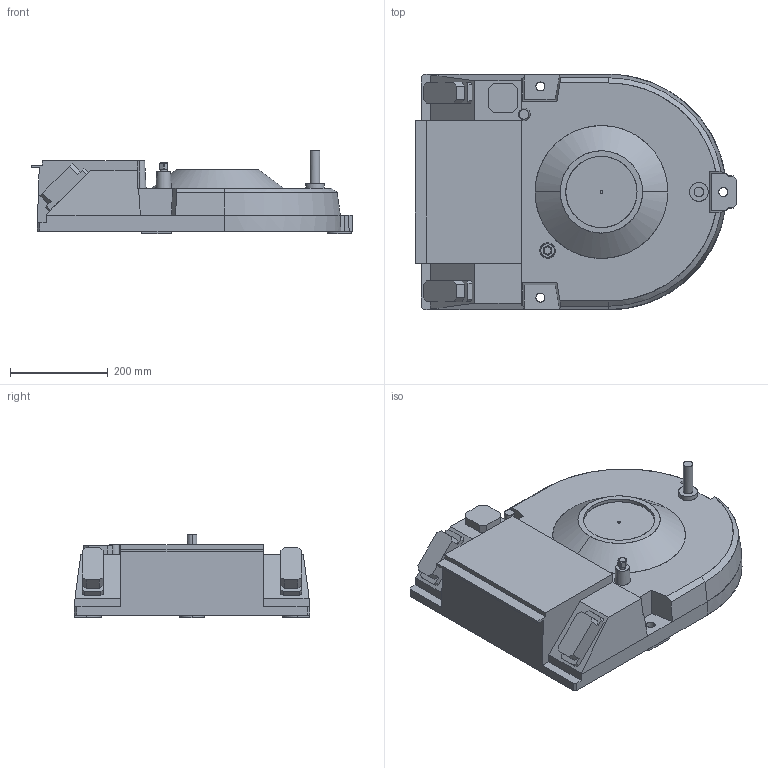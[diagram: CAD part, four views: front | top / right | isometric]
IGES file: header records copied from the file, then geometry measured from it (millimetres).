
Start section: SolidWorks IGES file using analytic representation for surfaces
Global section: file name: C:\Users\CNYUGAO6\Desktop\web model\IRB1660ID_4-155_IRC5_rev0_BASE.IGS; native system: SolidWorks 2014; preprocessor: SolidWorks 2014; author: CNYUGAO6; date: 160905.131612; units: millimetre
Bounding box: 660.26 x 483.27 x 171 mm (x, y, z)
Surface area: 853667 mm2 (no closed solid volume)
Topology: 0 solids, 0 shells, 160 faces, 2164 edges, 2164 vertices
Faces by surface type: bspline 146, revolution 14
